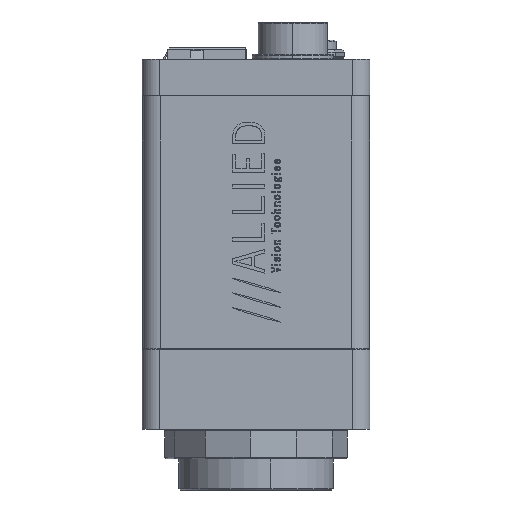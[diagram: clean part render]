
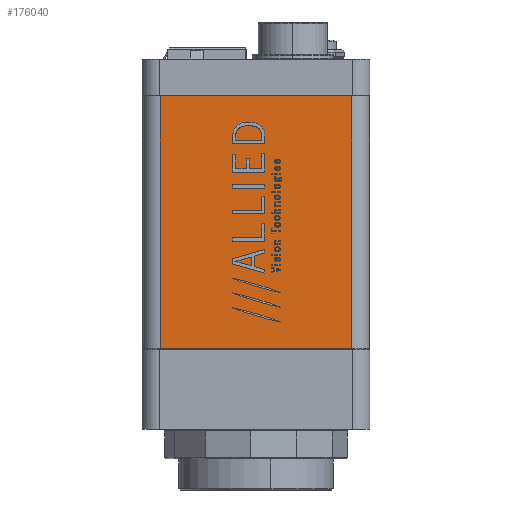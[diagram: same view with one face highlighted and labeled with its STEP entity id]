
A CAD part, left-side view. The second image highlights one B-rep face of the part: STEP entity #176040.
In plain terms, the highlighted planar face has unit normal (-1, 0, 0).
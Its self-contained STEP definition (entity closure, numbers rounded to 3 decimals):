
#3671 = CARTESIAN_POINT ( 'NONE',  ( -25.714, 16.558, 108.336 ) ) ;
#6932 = VERTEX_POINT ( 'NONE', #121514 ) ;
#8088 = LINE ( 'NONE', #80631, #95345 ) ;
#20245 = DIRECTION ( 'NONE',  ( 0., 0., 1. ) ) ;
#20640 = LINE ( 'NONE', #186606, #187406 ) ;
#39378 = EDGE_CURVE ( 'NONE', #168859, #58513, #8088, .T. ) ;
#45651 = VERTEX_POINT ( 'NONE', #158326 ) ;
#51500 = DIRECTION ( 'NONE',  ( 0., 0., 1. ) ) ;
#55924 = EDGE_CURVE ( 'NONE', #168859, #45651, #20640, .T. ) ;
#58513 = VERTEX_POINT ( 'NONE', #101168 ) ;
#76324 = EDGE_CURVE ( 'NONE', #6932, #45651, #106044, .T. ) ;
#80127 = FACE_OUTER_BOUND ( 'NONE', #149305, .T. ) ;
#80377 = DIRECTION ( 'NONE',  ( 0., 1., 0. ) ) ;
#80631 = CARTESIAN_POINT ( 'NONE',  ( -25.714, -16.558, 0. ) ) ;
#95345 = VECTOR ( 'NONE', #80377, 1000. ) ;
#98760 = CARTESIAN_POINT ( 'NONE',  ( -25.714, 16.558, 108.336 ) ) ;
#101168 = CARTESIAN_POINT ( 'NONE',  ( -25.714, 16.558, 0. ) ) ;
#102907 = VECTOR ( 'NONE', #51500, 1000. ) ;
#106044 = LINE ( 'NONE', #174955, #190700 ) ;
#116939 = ORIENTED_EDGE ( 'NONE', *, *, #76324, .F. ) ;
#118158 = DIRECTION ( 'NONE',  ( -1., 0., 0. ) ) ;
#121514 = CARTESIAN_POINT ( 'NONE',  ( -25.714, 16.558, 43.65 ) ) ;
#132446 = ORIENTED_EDGE ( 'NONE', *, *, #169582, .F. ) ;
#138472 = ORIENTED_EDGE ( 'NONE', *, *, #55924, .T. ) ;
#145815 = LINE ( 'NONE', #98760, #102907 ) ;
#149305 = EDGE_LOOP ( 'NONE', ( #132446, #188334, #138472, #116939 ) ) ;
#149759 = PLANE ( 'NONE',  #193057 ) ;
#158326 = CARTESIAN_POINT ( 'NONE',  ( -25.714, -16.558, 43.65 ) ) ;
#168859 = VERTEX_POINT ( 'NONE', #176066 ) ;
#169582 = EDGE_CURVE ( 'NONE', #58513, #6932, #145815, .T. ) ;
#174907 = DIRECTION ( 'NONE',  ( 0., -1., 0. ) ) ;
#174955 = CARTESIAN_POINT ( 'NONE',  ( -25.714, 16.558, 43.65 ) ) ;
#176040 = ADVANCED_FACE ( 'NONE', ( #80127 ), #149759, .T. ) ;
#176066 = CARTESIAN_POINT ( 'NONE',  ( -25.714, -16.558, 0. ) ) ;
#185216 = DIRECTION ( 'NONE',  ( 0., 0., 1. ) ) ;
#186606 = CARTESIAN_POINT ( 'NONE',  ( -25.714, -16.558, 108.336 ) ) ;
#187406 = VECTOR ( 'NONE', #185216, 1000. ) ;
#188334 = ORIENTED_EDGE ( 'NONE', *, *, #39378, .F. ) ;
#190700 = VECTOR ( 'NONE', #174907, 1000. ) ;
#193057 = AXIS2_PLACEMENT_3D ( 'NONE', #3671, #118158, #20245 ) ;
